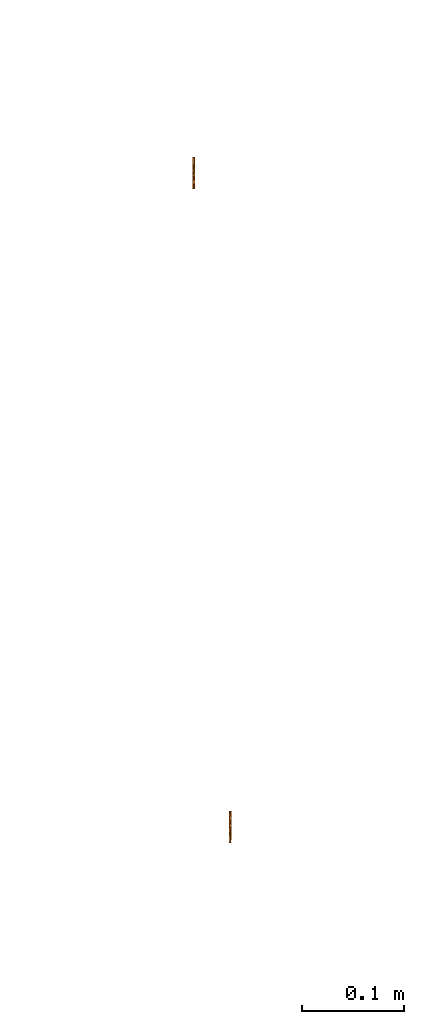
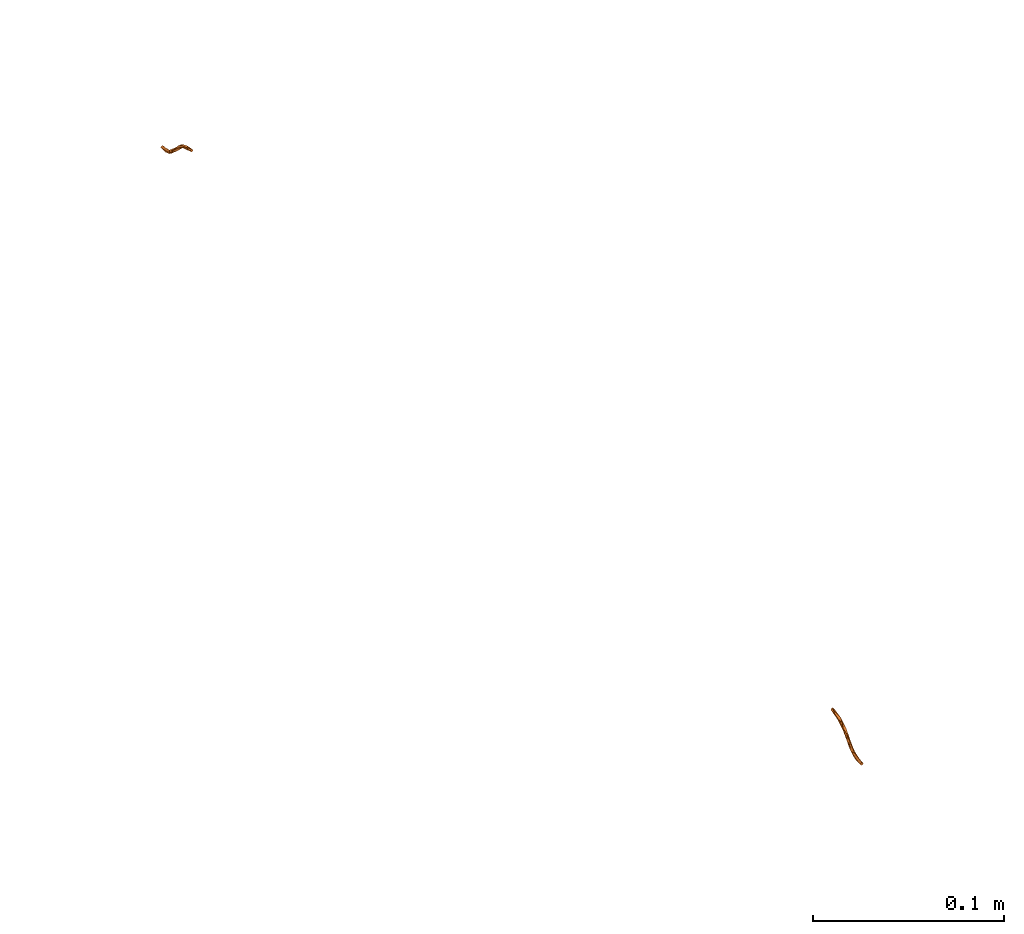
# One storey, part 197 of 197: 2 proxies.
"""IFC2X3 building model written with IfcOpenShell, lengths in metres."""

from ifc_helpers import new_model, entity, si_unit, converted_unit, direction, frame, origin, place, context, subcontext, project, spatial, faceted_brep, source, transform, mapped, material, type_object, type_shapes, element, save


model = new_model("IFC2X3")

# Units and contexts
model_context = context("Model", 3, precision=1e-05, world=origin(), true_north=direction((6.123031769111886e-17, 1.0)))
body_context = subcontext(model_context, "Body", "Model", "MODEL_VIEW")
ifc_project = project(units=[si_unit("LENGTHUNIT", "METRE"), converted_unit("PLANEANGLEUNIT", "DEGREE", entity("IfcPlaneAngleMeasure", 0.017453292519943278), si_unit("PLANEANGLEUNIT", "RADIAN"), dimensions=[0, 0, 0, 0, 0, 0, 0]), si_unit("AREAUNIT", "SQUARE_METRE")], contexts=[model_context])

# Site, building, storey
site_placement = place(None, origin())
site = spatial("IfcSite", under=ifc_project, at=site_placement, Name="Default", CompositionType="ELEMENT")
building_placement = place(site_placement, origin())
building = spatial("IfcBuilding", under=site, at=building_placement, CompositionType="ELEMENT")
storey_placement = place(building_placement, origin())
storey = spatial("IfcBuildingStorey", under=building, at=storey_placement, Name="Niveau 0", CompositionType="ELEMENT", Elevation=0.0)

# Proxies
ifc_material = material(Name="<Unnamed>")
building_element_proxy_type_1 = type_object("IfcBuildingElementProxyType", Name="Attente électrique-50e:FM ELEC", PredefinedType="NOTDEFINED", material=ifc_material)
shared_shape_1 = source(origin(), body_context, "Body", "Brep", [
    faceted_brep([(0.00015679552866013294, -0.024523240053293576, 0.009116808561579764), (-0.0008432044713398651, -0.024606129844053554, 0.00812024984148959), (0.00015679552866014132, -0.02468901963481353, 0.0071236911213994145), (0.0011567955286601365, -0.024606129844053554, 0.008120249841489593), (0.0010682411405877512, -0.020307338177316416, 0.007781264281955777), (0.0001567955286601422, -0.020902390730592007, 0.005938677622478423), (0.0011263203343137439, -0.017575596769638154, 0.006150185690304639), (0.00015679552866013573, -0.020007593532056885, 0.005658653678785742), (0.0001567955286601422, -0.015326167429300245, 0.00419361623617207), (0.0009420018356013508, -0.015917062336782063, 0.006344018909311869), (0.0009522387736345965, -0.011698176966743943, 0.0036743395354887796), (0.00015679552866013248, -0.014326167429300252, 0.005925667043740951), (0.00015679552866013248, -0.009383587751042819, 0.0013771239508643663), (0.00015679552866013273, -0.010395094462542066, 0.0023079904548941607), (0.0011567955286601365, -0.007285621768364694, -0.0018797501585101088), (0.0006567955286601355, -0.0068748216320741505, -0.0015947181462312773), (0.00015679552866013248, -0.006464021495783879, -0.0013096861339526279), (0.0010477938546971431, -0.01190066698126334, 0.002476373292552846), (0.00015679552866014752, -0.008107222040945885, -0.002449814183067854), (0.00015679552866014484, -0.011716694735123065, 0.000871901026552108), (0.00015679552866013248, -0.01942470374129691, 0.0075212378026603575), (0.00015679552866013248, -0.020736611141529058, 0.007931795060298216), (-0.000613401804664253, -0.017791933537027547, 0.005814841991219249), (-0.0006561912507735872, -0.013063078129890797, 0.003217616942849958), (-0.0008432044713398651, -0.007285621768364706, -0.0018797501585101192), (-0.0007811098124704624, -0.017711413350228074, 0.006845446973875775), (-0.000757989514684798, -0.011606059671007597, 0.0033430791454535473), (0.00015679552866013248, 0.006217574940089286, -0.0072232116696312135), (0.0005396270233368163, 0.0062525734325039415, -0.00760444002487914), (0.0011567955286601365, 0.006308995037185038, -0.008219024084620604), (0.00015679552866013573, 0.006400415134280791, -0.009214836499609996), (-0.00022603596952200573, 0.006365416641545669, -0.008833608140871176), (-0.0008432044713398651, 0.006308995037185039, -0.00821902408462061), (0.0009254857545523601, -0.001962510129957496, -0.0072987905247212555), (0.0008639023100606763, -0.004493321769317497, -0.0058064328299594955), (0.0001567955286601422, -0.0034257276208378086, -0.0063951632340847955), (0.00015679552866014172, 0.002505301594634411, -0.008536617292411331), (0.0001567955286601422, -0.005083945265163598, -0.004997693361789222), (0.00015679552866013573, -0.00493736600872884, -0.005121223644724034), (0.00015679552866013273, 0.002647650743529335, -0.006601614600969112), (0.00015679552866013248, 0.002322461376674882, -0.0065449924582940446), (0.00015679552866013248, -0.0036931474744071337, -0.00364485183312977), (0.0009203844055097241, -0.0043012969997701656, -0.004224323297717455), (0.00015679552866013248, -0.0009222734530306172, -0.005980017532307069), (0.00015679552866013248, -0.003440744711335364, -0.0038575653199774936), (0.0010089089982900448, 0.0014622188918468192, -0.008405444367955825), (0.0011567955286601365, -0.003257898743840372, -0.005816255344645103), (0.0010645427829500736, 0.00036395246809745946, -0.007116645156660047), (0.0001567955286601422, -0.0017675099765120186, -0.007792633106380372), (0.0010782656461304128, 0.003480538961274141, -0.007818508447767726), (0.0011516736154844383, -0.00551461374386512, -0.004127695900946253), (-0.0008432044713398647, -0.0028123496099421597, -0.006099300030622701), (-0.0006872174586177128, -0.004983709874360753, -0.0037543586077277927), (-0.0007245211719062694, 0.0005251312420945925, -0.008103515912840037), (-0.0008173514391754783, 0.0031055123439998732, -0.007939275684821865), (-0.0006218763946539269, 0.0034380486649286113, -0.008835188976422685), (-0.0007251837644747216, -0.005518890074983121, -0.0046348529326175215), (-0.0006856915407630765, 0.00016389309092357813, -0.006921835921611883)], [[[0, 1, 2, 3]], [[3, 4, 0]], [[2, 5, 3]], [[3, 5, 6]], [[6, 5, 7, 8]], [[9, 10, 11]], [[10, 12, 13, 11]], [[12, 14, 15, 16]], [[12, 10, 14]], [[14, 17, 18]], [[19, 18, 17, 8]], [[17, 10, 9]], [[8, 17, 6]], [[6, 17, 9]], [[17, 14, 10]], [[3, 6, 4]], [[6, 9, 4]], [[4, 20, 21, 0]], [[9, 11, 20]], [[4, 9, 20]], [[2, 1, 22]], [[19, 23, 24]], [[25, 21, 20, 11]], [[1, 21, 25]], [[22, 23, 8]], [[26, 23, 25]], [[19, 8, 23]], [[26, 24, 23]], [[26, 13, 24]], [[1, 0, 21]], [[23, 22, 25]], [[26, 25, 11]], [[19, 24, 18]], [[25, 22, 1]], [[22, 8, 7, 5, 2]], [[24, 13, 12, 16]], [[26, 11, 13]], [[27, 28, 29, 30, 31, 32]], [[33, 34, 35]], [[36, 30, 29]], [[34, 37, 38, 35]], [[28, 27, 39, 40]], [[41, 16, 42, 43, 44]], [[36, 29, 45]], [[46, 47, 43]], [[43, 47, 40]], [[33, 35, 48]], [[42, 16, 15]], [[45, 47, 33]], [[29, 28, 49]], [[49, 47, 45]], [[18, 50, 14]], [[40, 49, 28]], [[47, 49, 40]], [[49, 45, 29]], [[36, 45, 48]], [[34, 33, 46]], [[18, 37, 50]], [[34, 46, 50]], [[46, 33, 47]], [[33, 48, 45]], [[37, 34, 50]], [[50, 46, 42]], [[15, 14, 50]], [[43, 42, 46]], [[50, 42, 15]], [[51, 52, 44]], [[24, 16, 52]], [[43, 51, 44]], [[53, 54, 55]], [[56, 48, 35, 38, 37, 18]], [[32, 55, 54]], [[51, 53, 48]], [[57, 53, 51]], [[52, 51, 56]], [[43, 57, 51]], [[53, 57, 54]], [[53, 36, 48]], [[54, 57, 39]], [[31, 30, 36]], [[39, 27, 54]], [[57, 43, 40, 39]], [[27, 32, 54]], [[36, 53, 55]], [[55, 31, 36]], [[31, 55, 32]], [[52, 16, 41, 44]], [[48, 56, 51]], [[24, 52, 56]], [[24, 56, 18]]]),
])
type_shapes(building_element_proxy_type_1, [shared_shape_1])
proxy_1_placement = place(storey_placement, frame((28.477797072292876, 149.740484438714, 0.0), z_axis=(0.0, 0.0, 1.0), x_axis=(-1.0, 0.0, 0.0)))
element("IfcBuildingElementProxy", 1, at=proxy_1_placement, inside=storey, type_object=building_element_proxy_type_1, material=ifc_material, Name="Attente électrique-50e:FM ELEC", ObjectType="Attente électrique-50e:FM ELEC", context=body_context, shape_type="MappedRepresentation", body=[
    mapped(shared_shape_1, transform((0.0, 0.0, 0.0), scale=1.0)),
])
building_element_proxy_type_2 = type_object("IfcBuildingElementProxyType", Name="Attente électrique-50e:FM ELEC", PredefinedType="NOTDEFINED", material=ifc_material)
shared_shape_2 = source(origin(), body_context, "Body", "Brep", [
    faceted_brep([(0.00015679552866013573, 0.02468901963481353, 0.0071236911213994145), (-0.0008432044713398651, 0.024606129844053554, 0.00812024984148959), (0.00015679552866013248, 0.024523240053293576, 0.009116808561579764), (0.0011567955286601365, 0.024606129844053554, 0.008120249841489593), (0.0010682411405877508, 0.020307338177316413, 0.007781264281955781), (0.0001567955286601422, 0.020902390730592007, 0.005938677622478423), (0.0011263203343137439, 0.017575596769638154, 0.006150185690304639), (0.0001567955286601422, 0.015326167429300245, 0.00419361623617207), (0.00015679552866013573, 0.020007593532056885, 0.005658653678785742), (0.00015679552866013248, 0.014326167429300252, 0.005925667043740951), (0.0009522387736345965, 0.011698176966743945, 0.0036743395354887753), (0.0009420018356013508, 0.015917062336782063, 0.006344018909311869), (0.00015679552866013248, 0.010395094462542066, 0.0023079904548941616), (0.00015679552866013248, 0.009383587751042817, 0.0013771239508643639), (0.00015679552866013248, 0.006464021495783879, -0.00130968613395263), (0.0006567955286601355, 0.006874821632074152, -0.0015947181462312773), (0.0011567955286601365, 0.007285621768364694, -0.0018797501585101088), (0.0001567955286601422, 0.008107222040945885, -0.002449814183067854), (0.0010477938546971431, 0.01190066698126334, 0.002476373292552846), (0.0001567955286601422, 0.011716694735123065, 0.000871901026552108), (0.00015679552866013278, 0.020736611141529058, 0.007931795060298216), (0.00015679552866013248, 0.01942470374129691, 0.0075212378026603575), (-0.000613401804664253, 0.017791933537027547, 0.005814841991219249), (-0.0008432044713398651, 0.007285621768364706, -0.0018797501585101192), (-0.0006561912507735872, 0.013063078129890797, 0.003217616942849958), (-0.0007811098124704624, 0.017711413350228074, 0.006845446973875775), (-0.000757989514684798, 0.011606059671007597, 0.0033430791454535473), (0.00015679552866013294, -0.006217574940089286, -0.0072232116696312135), (-0.0008432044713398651, -0.006308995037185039, -0.00821902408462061), (-0.00022603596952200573, -0.006365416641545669, -0.008833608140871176), (0.00015679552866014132, -0.006400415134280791, -0.009214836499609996), (0.0011567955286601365, -0.006308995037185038, -0.008219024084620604), (0.0005396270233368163, -0.0062525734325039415, -0.00760444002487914), (0.00015679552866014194, 0.003425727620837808, -0.0063951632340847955), (0.0008639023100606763, 0.004493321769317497, -0.0058064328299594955), (0.0009254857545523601, 0.001962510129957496, -0.0072987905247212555), (0.0001567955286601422, -0.0025053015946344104, -0.008536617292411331), (0.00015679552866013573, 0.004937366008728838, -0.005121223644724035), (0.00015679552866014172, 0.005083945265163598, -0.004997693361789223), (0.00015679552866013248, -0.002322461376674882, -0.0065449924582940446), (0.00015679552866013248, -0.002647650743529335, -0.006601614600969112), (0.0009203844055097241, 0.0043012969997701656, -0.004224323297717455), (0.00015679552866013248, 0.0036931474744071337, -0.00364485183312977), (0.00015679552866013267, 0.0034407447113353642, -0.0038575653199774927), (0.00015679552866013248, 0.0009222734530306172, -0.005980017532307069), (0.0010089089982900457, -0.0014622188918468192, -0.008405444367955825), (0.0010645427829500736, -0.00036395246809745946, -0.007116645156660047), (0.0011567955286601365, 0.003257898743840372, -0.005816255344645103), (0.0001567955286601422, 0.0017675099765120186, -0.007792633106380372), (0.0010782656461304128, -0.003480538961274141, -0.007818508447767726), (0.0011516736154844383, 0.00551461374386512, -0.004127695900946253), (-0.0006872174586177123, 0.004983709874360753, -0.0037543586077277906), (-0.0008432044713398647, 0.0028123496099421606, -0.006099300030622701), (-0.0006218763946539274, -0.0034380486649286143, -0.008835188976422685), (-0.0008173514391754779, -0.0031055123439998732, -0.007939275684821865), (-0.0007245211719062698, -0.0005251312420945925, -0.008103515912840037), (-0.0007251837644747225, 0.005518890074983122, -0.00463485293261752), (-0.0006856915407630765, -0.00016389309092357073, -0.00692183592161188)], [[[0, 1, 2, 3]], [[2, 4, 3]], [[3, 5, 0]], [[6, 5, 3]], [[6, 7, 8, 5]], [[9, 10, 11]], [[10, 9, 12, 13]], [[13, 14, 15, 16]], [[16, 10, 13]], [[17, 18, 16]], [[18, 17, 19, 7]], [[11, 10, 18]], [[6, 18, 7]], [[11, 18, 6]], [[10, 16, 18]], [[4, 6, 3]], [[4, 11, 6]], [[4, 2, 20, 21]], [[21, 9, 11]], [[21, 11, 4]], [[22, 1, 0]], [[23, 24, 19]], [[25, 9, 21, 20]], [[25, 20, 1]], [[7, 24, 22]], [[25, 24, 26]], [[24, 7, 19]], [[24, 23, 26]], [[23, 12, 26]], [[20, 2, 1]], [[25, 22, 24]], [[9, 25, 26]], [[17, 23, 19]], [[1, 22, 25]], [[22, 0, 5, 8, 7]], [[23, 14, 13, 12]], [[12, 9, 26]], [[27, 28, 29, 30, 31, 32]], [[33, 34, 35]], [[31, 30, 36]], [[34, 33, 37, 38]], [[32, 39, 40, 27]], [[41, 14, 42, 43, 44]], [[45, 31, 36]], [[44, 46, 47]], [[39, 46, 44]], [[48, 33, 35]], [[15, 14, 41]], [[35, 46, 45]], [[49, 32, 31]], [[45, 46, 49]], [[16, 50, 17]], [[32, 49, 39]], [[39, 49, 46]], [[31, 45, 49]], [[48, 45, 36]], [[47, 35, 34]], [[50, 38, 17]], [[50, 47, 34]], [[46, 35, 47]], [[45, 48, 35]], [[50, 34, 38]], [[41, 47, 50]], [[50, 16, 15]], [[47, 41, 44]], [[15, 41, 50]], [[43, 51, 52]], [[51, 14, 23]], [[43, 52, 44]], [[53, 54, 55]], [[56, 17, 38, 37, 33, 48]], [[54, 53, 28]], [[48, 55, 52]], [[52, 55, 57]], [[56, 52, 51]], [[52, 57, 44]], [[54, 57, 55]], [[48, 36, 55]], [[40, 57, 54]], [[36, 30, 29]], [[54, 27, 40]], [[57, 40, 39, 44]], [[54, 28, 27]], [[53, 55, 36]], [[36, 29, 53]], [[28, 53, 29]], [[51, 43, 42, 14]], [[52, 56, 48]], [[56, 51, 23]], [[17, 56, 23]]]),
])
type_shapes(building_element_proxy_type_2, [shared_shape_2])
proxy_2_placement = place(storey_placement, frame((28.442195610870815, 150.399440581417, 0.0), z_axis=(0.0, 0.0, 1.0), x_axis=(-1.0, 0.0, 0.0)))
element("IfcBuildingElementProxy", 2, at=proxy_2_placement, inside=storey, type_object=building_element_proxy_type_2, material=ifc_material, Name="Attente électrique-50e:FM ELEC", ObjectType="Attente électrique-50e:FM ELEC", context=body_context, shape_type="MappedRepresentation", body=[
    mapped(shared_shape_2, transform((0.0, 0.0, 0.0), scale=1.0)),
])

save(model, "model.ifc")
